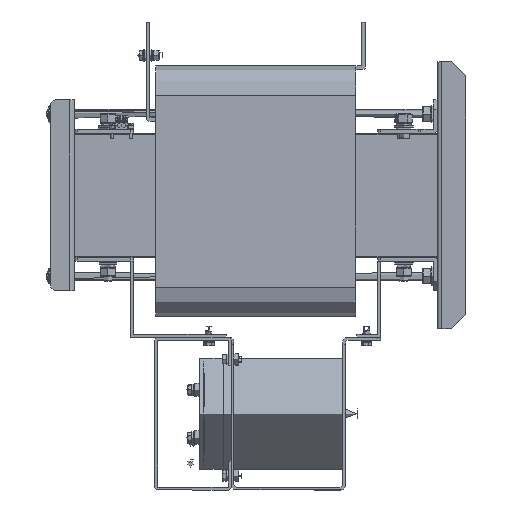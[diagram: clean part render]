
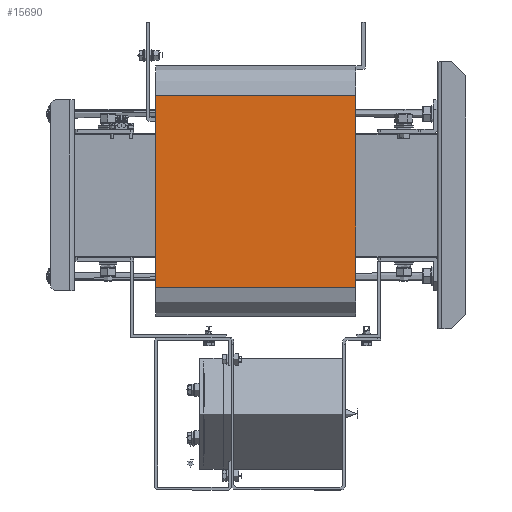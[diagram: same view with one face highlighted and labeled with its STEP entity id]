
A CAD part, left-side view. The second image highlights one B-rep face of the part: STEP entity #15690.
In plain terms, the highlighted planar face has unit normal (-1, 0, 0).
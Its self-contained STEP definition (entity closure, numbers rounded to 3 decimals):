
#15690=ADVANCED_FACE('',(#25817),#25819,.F.);
#25817=FACE_BOUND('',#25818,.T.);
#25818=EDGE_LOOP('',(#37360,#37361,#37362,#37363));
#25819=PLANE('',#25820);
#25820=AXIS2_PLACEMENT_3D('',#25821,#25822,#25823);
#25821=CARTESIAN_POINT('',(-73.5,127.5,105.));
#25822=DIRECTION('',(1.,0.,0.));
#25823=DIRECTION('',(0.,1.,0.));
#37360=ORIENTED_EDGE('',*,*,#41200,.T.);
#37361=ORIENTED_EDGE('',*,*,#41214,.T.);
#37362=ORIENTED_EDGE('',*,*,#41182,.F.);
#37363=ORIENTED_EDGE('',*,*,#41215,.T.);
#41182=EDGE_CURVE('',#45705,#45707,#45708,.T.);
#41200=EDGE_CURVE('',#45743,#45741,#45744,.T.);
#41214=EDGE_CURVE('',#45741,#45707,#45766,.T.);
#41215=EDGE_CURVE('',#45705,#45743,#45767,.T.);
#45705=VERTEX_POINT('',#57221);
#45707=VERTEX_POINT('',#57226);
#45708=LINE('',#57227,#57228);
#45741=VERTEX_POINT('',#57302);
#45743=VERTEX_POINT('',#57307);
#45744=LINE('',#57308,#57309);
#45766=LINE('',#57363,#57364);
#45767=LINE('',#57366,#57367);
#57221=CARTESIAN_POINT('',(-73.5,96.5,105.));
#57226=CARTESIAN_POINT('',(-73.5,-104.5,105.));
#57227=CARTESIAN_POINT('',(-73.5,96.5,105.));
#57228=VECTOR('',#57229,1.);
#57229=DIRECTION('',(0.,-1.,0.));
#57302=CARTESIAN_POINT('',(-73.5,-104.5,-105.));
#57307=CARTESIAN_POINT('',(-73.5,96.5,-105.));
#57308=CARTESIAN_POINT('',(-73.5,96.5,-105.));
#57309=VECTOR('',#57310,1.);
#57310=DIRECTION('',(0.,-1.,0.));
#57363=CARTESIAN_POINT('',(-73.5,-104.5,-105.));
#57364=VECTOR('',#57365,1.);
#57365=DIRECTION('',(0.,0.,1.));
#57366=CARTESIAN_POINT('',(-73.5,96.5,105.));
#57367=VECTOR('',#57368,1.);
#57368=DIRECTION('',(0.,0.,-1.));
